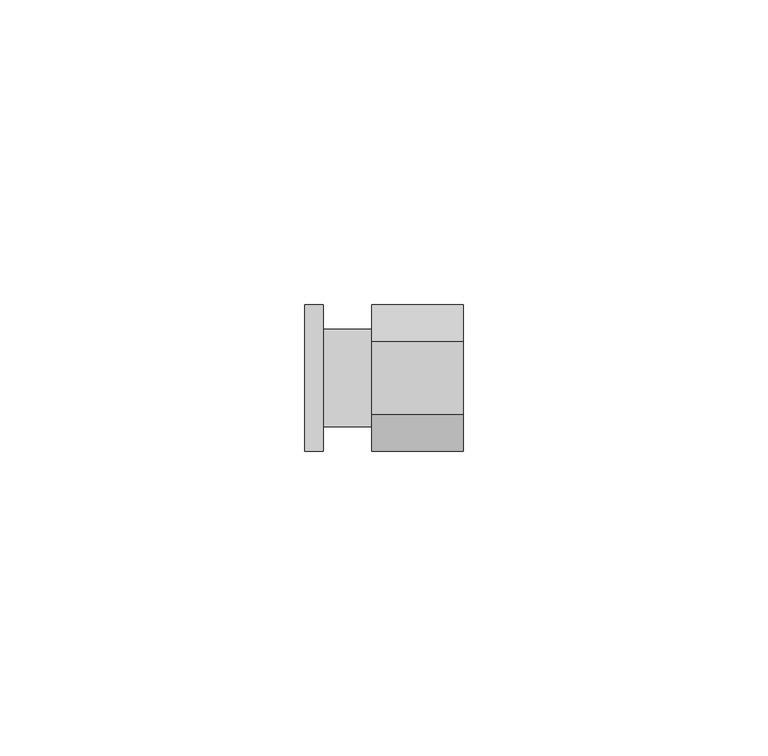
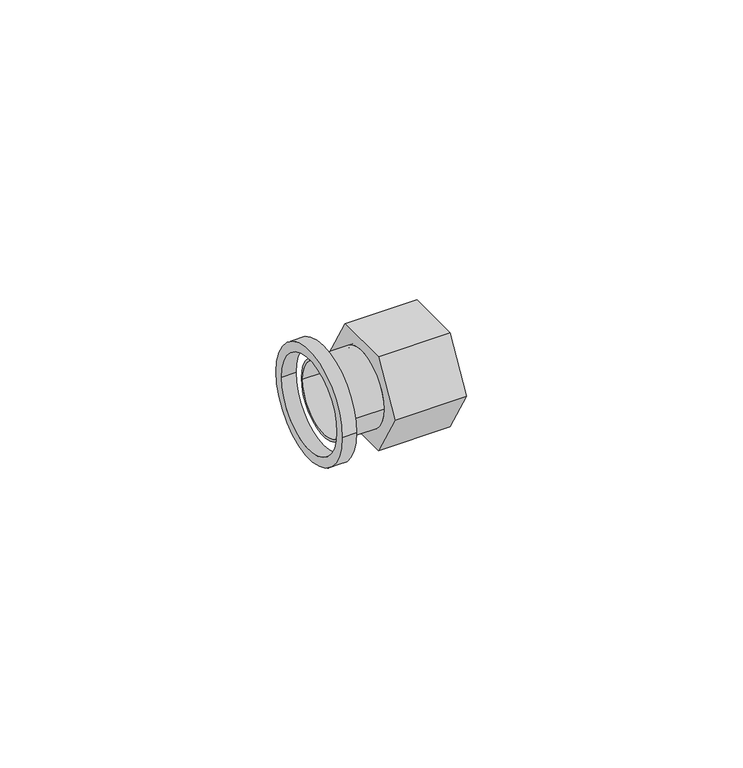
"""IFC4 building model written with IfcOpenShell, lengths in millimetres: pipe fitting geometry, БИР ПЕКС_КМП_Соединитель_Резьба_Наружная : Соединитель прямой с наружной резьбой_КМП."""

from ifc_helpers import new_model, si_unit, point, frame, origin, origin_2d, place, context, project, spatial, polyline, circle_curve, trimmed, segment, composite_curve, outline, extrude, source, transform, mapped, element, save


def pipe_fitting_29d12cfd(model_context):
    return source(origin(), model_context, "Body", "SweptSolid", [
        extrude(outline(polyline([(-6.0, -10.3923048), (-12.0, 0.0), (-6.0, 10.3923048), (6.0, 10.3923048), (12.0, 0.0), (6.0, -10.3923048), (-6.0, -10.3923048)]), holes=[composite_curve([segment(trimmed(circle_curve(origin_2d(), 8.0), [point((-8.0, 0.0))], [point((8.0, 0.0))], True, "CARTESIAN"), True, "CONTINUOUS"), segment(trimmed(circle_curve(origin_2d(), 8.0), [point((8.0, 0.0))], [point((-8.0, 0.0))], True, "CARTESIAN"), True, "CONTINUOUS")], self_intersect=False)]), frame((0.0, 0.0, 0.0), z_axis=(1.0, 0.0, 0.0), x_axis=(0.0, 1.0, 0.0)), (0.0, 0.0, 1.0), 15.0),
        extrude(outline(composite_curve([segment(trimmed(circle_curve(origin_2d(), 8.0), [point((-8.0, 0.0))], [point((8.0, 0.0))], False, "CARTESIAN"), True, "CONTINUOUS"), segment(trimmed(circle_curve(origin_2d(), 8.0), [point((8.0, 0.0))], [point((-8.0, 0.0))], False, "CARTESIAN"), True, "CONTINUOUS")], self_intersect=False), holes=[composite_curve([segment(trimmed(circle_curve(origin_2d(), 7.5), [point((-7.5, 0.0))], [point((7.5, 0.0))], True, "CARTESIAN"), True, "CONTINUOUS"), segment(trimmed(circle_curve(origin_2d(), 7.5), [point((7.5, 0.0))], [point((-7.5, 0.0))], True, "CARTESIAN"), True, "CONTINUOUS")], self_intersect=False)]), frame((-8.0, 0.0, 0.0), z_axis=(1.0, 0.0, 0.0), x_axis=(0.0, 1.0, 0.0)), (0.0, 0.0, 1.0), 8.0),
        extrude(outline(composite_curve([segment(trimmed(circle_curve(origin_2d(), 12.0), [point((-12.0, 0.0))], [point((12.0, 0.0))], False, "CARTESIAN"), True, "CONTINUOUS"), segment(trimmed(circle_curve(origin_2d(), 12.0), [point((12.0, 0.0))], [point((-12.0, 0.0))], False, "CARTESIAN"), True, "CONTINUOUS")], self_intersect=False), holes=[composite_curve([segment(trimmed(circle_curve(origin_2d(), 10.0), [point((-10.0, 0.0))], [point((10.0, 0.0))], True, "CARTESIAN"), True, "CONTINUOUS"), segment(trimmed(circle_curve(origin_2d(), 10.0), [point((10.0, 0.0))], [point((-10.0, 0.0))], True, "CARTESIAN"), True, "CONTINUOUS")], self_intersect=False)]), frame((-11.0, 0.0, 0.0), z_axis=(1.0, 0.0, 0.0), x_axis=(0.0, 1.0, 0.0)), (0.0, 0.0, 1.0), 3.0),
    ])


if __name__ == "__main__":
    model = new_model("IFC4")
    model_context = context("Model", 3, world=origin())
    ifc_project = project(units=[si_unit("LENGTHUNIT", "METRE", prefix="MILLI")], contexts=[model_context])
    site = spatial("IfcSite", under=ifc_project)
    building = spatial("IfcBuilding", under=site)
    placement = place(None, origin())
    pipe_fitting_shape = pipe_fitting_29d12cfd(model_context)
    element("IfcPipeFitting", 1, ObjectType="БИР ПЕКС_КМП_Соединитель_Резьба_Наружная : Соединитель прямой с наружной резьбой_КМП", at=placement, inside=building, context=model_context, shape_type="MappedRepresentation", body=[
        mapped(pipe_fitting_shape, transform((0.0, 0.0, 0.0), x_axis=(1.0, 0.0, 0.0), y_axis=(0.0, 1.0, 0.0), z_axis=(0.0, 0.0, 1.0))),
    ])
    save(model, "model.ifc")
